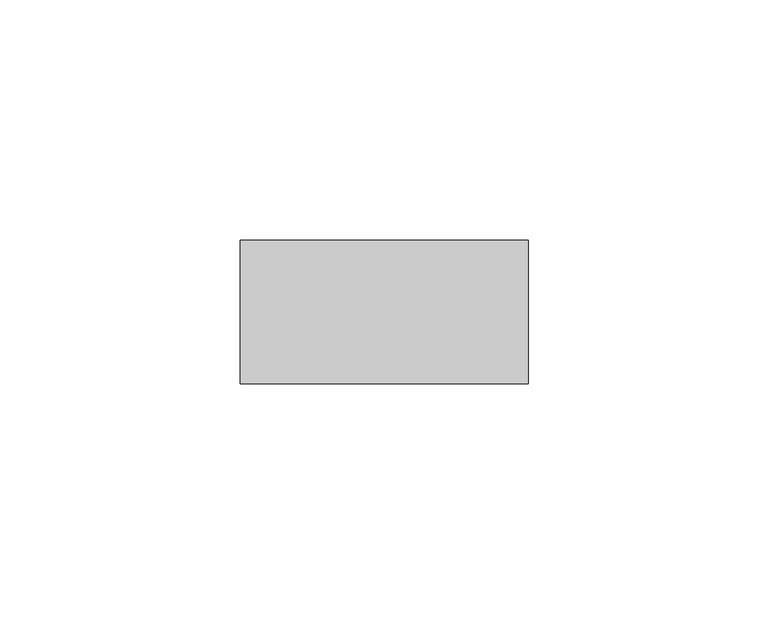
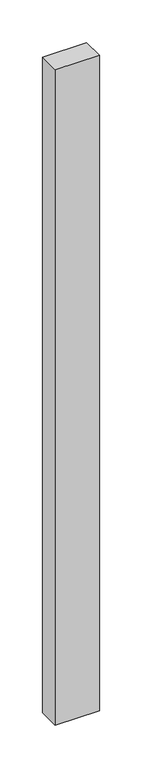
"""IFC4 building model written with IfcOpenShell, lengths in millimetres: member geometry, Прямоугольный импост : Квадрат 30 мм."""

from ifc_helpers import new_model, si_unit, frame, origin, place, context, project, spatial, polyline, outline, extrude, source, transform, mapped, element, save


def member_fce45d35(model_context):
    return source(origin(), model_context, "Body", "SweptSolid", [
        extrude(outline(polyline([(30.0, 15.0), (30.0, -15.0), (-30.0, -15.0), (-30.0, 15.0), (30.0, 15.0)])), frame((0.0, 0.0, -940.0), z_axis=(0.0, 0.0, 1.0), x_axis=(1.0, 0.0, 0.0)), (0.0, 0.0, 1.0), 940.0),
    ])


if __name__ == "__main__":
    model = new_model("IFC4")
    model_context = context("Model", 3, world=origin())
    ifc_project = project(units=[si_unit("LENGTHUNIT", "METRE", prefix="MILLI")], contexts=[model_context])
    site = spatial("IfcSite", under=ifc_project)
    building = spatial("IfcBuilding", under=site)
    placement = place(None, origin())
    member_shape = member_fce45d35(model_context)
    element("IfcMember", 1, ObjectType="Прямоугольный импост : Квадрат 30 мм", at=placement, inside=building, context=model_context, shape_type="MappedRepresentation", body=[
        mapped(member_shape, transform((0.0, 0.0, 0.0), x_axis=(1.0, 0.0, 0.0), y_axis=(0.0, 1.0, 0.0), z_axis=(0.0, 0.0, 1.0))),
    ])
    save(model, "model.ifc")
